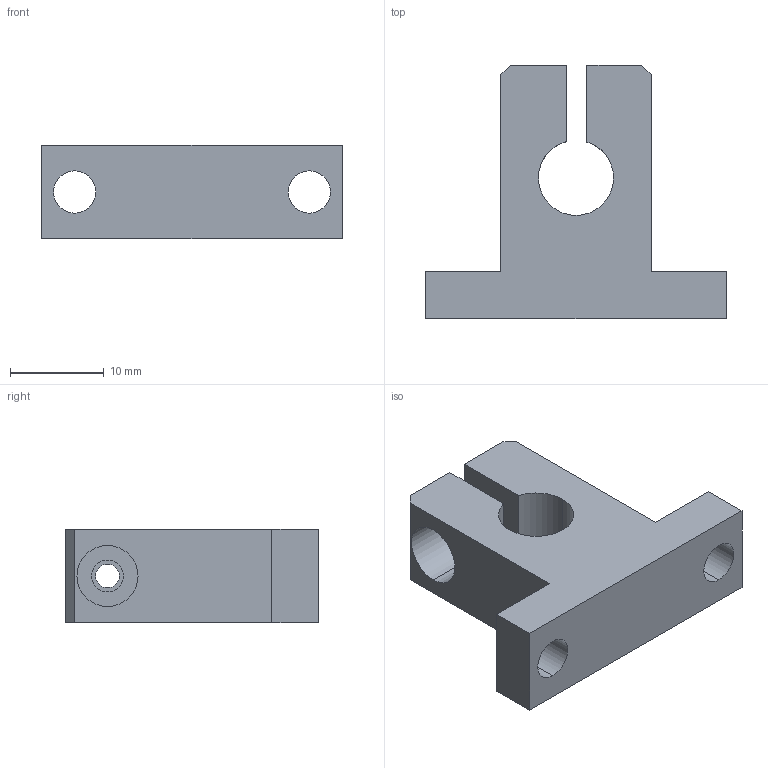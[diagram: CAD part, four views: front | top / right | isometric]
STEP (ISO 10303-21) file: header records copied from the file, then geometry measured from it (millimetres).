
FILE_DESCRIPTION (( 'STEP AP214' ), '1' );
FILE_NAME ('KWB55-08.step', '2020-03-04T13:39:35', ( '' ), ( '' ), 'SwSTEP 2.0', 'SolidWorks 2019', '' );
FILE_SCHEMA (( 'AUTOMOTIVE_DESIGN' ));
Length unit declared in the file: millimetre
Products named in the file (1): KWB55-08
Bounding box: 32 x 27 x 10 mm (x, y, z)
Volume: 4057.5 mm3; surface area: 2653.2 mm2
Topology: 1 solids, 1 shells, 29 faces, 78 edges, 52 vertices
Faces by surface type: plane 16, cylinder 13
Entity records: 990 total; most frequent: DIRECTION 164, CARTESIAN_POINT 160, ORIENTED_EDGE 156, EDGE_CURVE 78, AXIS2_PLACEMENT_3D 56, VECTOR 52, LINE 52, VERTEX_POINT 52
